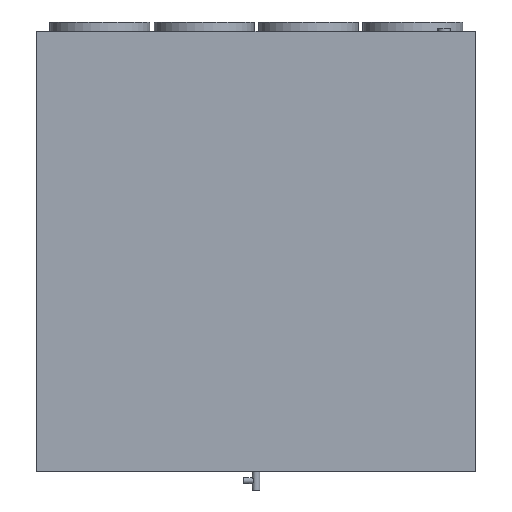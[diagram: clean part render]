
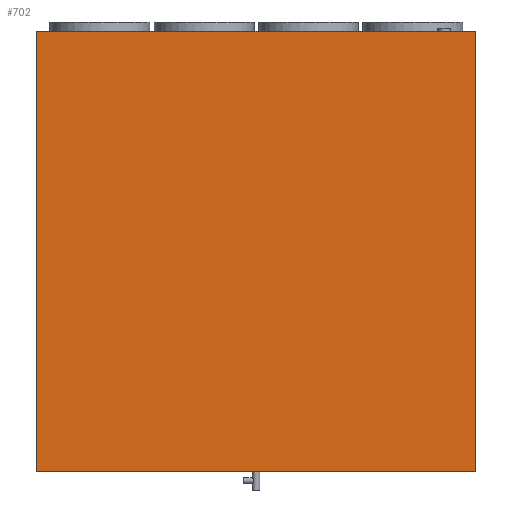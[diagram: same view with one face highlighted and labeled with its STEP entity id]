
A CAD part, front view. The second image highlights one B-rep face of the part: STEP entity #702.
In plain terms, the highlighted planar face has unit normal (0, -1, 0).
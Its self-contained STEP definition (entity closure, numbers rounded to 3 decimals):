
#61=PLANE('',#793);
#105=FACE_OUTER_BOUND('',#167,.T.);
#167=EDGE_LOOP('',(#631,#632,#633,#634));
#206=LINE('',#1161,#267);
#210=LINE('',#1169,#271);
#213=LINE('',#1175,#274);
#216=LINE('',#1180,#277);
#267=VECTOR('',#922,10.);
#271=VECTOR('',#928,10.);
#274=VECTOR('',#933,10.);
#277=VECTOR('',#938,10.);
#358=VERTEX_POINT('',#1159);
#359=VERTEX_POINT('',#1160);
#362=VERTEX_POINT('',#1168);
#364=VERTEX_POINT('',#1174);
#435=EDGE_CURVE('',#358,#359,#206,.T.);
#439=EDGE_CURVE('',#359,#362,#210,.T.);
#442=EDGE_CURVE('',#362,#364,#213,.T.);
#445=EDGE_CURVE('',#364,#358,#216,.T.);
#631=ORIENTED_EDGE('',*,*,#435,.T.);
#632=ORIENTED_EDGE('',*,*,#439,.T.);
#633=ORIENTED_EDGE('',*,*,#442,.T.);
#634=ORIENTED_EDGE('',*,*,#445,.T.);
#702=ADVANCED_FACE('',(#105),#61,.T.);
#793=AXIS2_PLACEMENT_3D('',#1229,#991,#992);
#922=DIRECTION('',(0.,0.,-1.));
#928=DIRECTION('',(1.,0.,0.));
#933=DIRECTION('',(0.,0.,1.));
#938=DIRECTION('',(-1.,0.,0.));
#991=DIRECTION('center_axis',(0.,-1.,0.));
#992=DIRECTION('ref_axis',(0.,0.,-1.));
#1159=CARTESIAN_POINT('',(-350.9,-246.,351.9));
#1160=CARTESIAN_POINT('',(-350.9,-246.,-351.9));
#1161=CARTESIAN_POINT('',(-350.9,-246.,-175.95));
#1168=CARTESIAN_POINT('',(350.9,-246.,-351.9));
#1169=CARTESIAN_POINT('',(175.45,-246.,-351.9));
#1174=CARTESIAN_POINT('',(350.9,-246.,351.9));
#1175=CARTESIAN_POINT('',(350.9,-246.,175.95));
#1180=CARTESIAN_POINT('',(-175.45,-246.,351.9));
#1229=CARTESIAN_POINT('Origin',(0.,-246.,0.));
